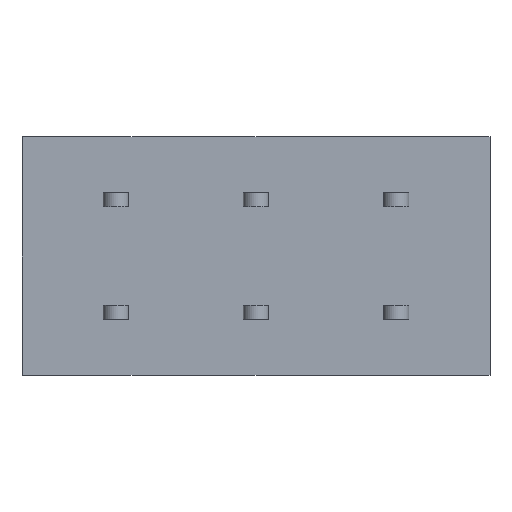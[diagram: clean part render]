
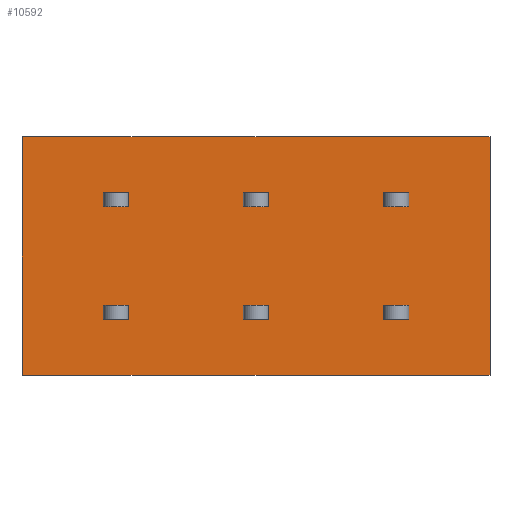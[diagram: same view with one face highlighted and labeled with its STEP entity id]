
A CAD part, front view. The second image highlights one B-rep face of the part: STEP entity #10592.
In plain terms, the highlighted planar face has unit normal (0, -1, 0).
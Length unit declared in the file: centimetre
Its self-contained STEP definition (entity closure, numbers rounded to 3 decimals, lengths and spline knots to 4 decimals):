
#671=VERTEX_POINT('',#13988);
#672=VERTEX_POINT('',#13989);
#675=VERTEX_POINT('',#13997);
#677=VERTEX_POINT('',#14003);
#678=VERTEX_POINT('',#14004);
#681=VERTEX_POINT('',#14012);
#710=VERTEX_POINT('',#14086);
#713=VERTEX_POINT('',#14100);
#724=VERTEX_POINT('',#14142);
#725=VERTEX_POINT('',#14143);
#726=VERTEX_POINT('',#14145);
#727=VERTEX_POINT('',#14147);
#728=VERTEX_POINT('',#14150);
#729=VERTEX_POINT('',#14151);
#730=VERTEX_POINT('',#14153);
#731=VERTEX_POINT('',#14155);
#732=VERTEX_POINT('',#14158);
#733=VERTEX_POINT('',#14159);
#734=VERTEX_POINT('',#14161);
#735=VERTEX_POINT('',#14163);
#736=VERTEX_POINT('',#14166);
#737=VERTEX_POINT('',#14167);
#738=VERTEX_POINT('',#14169);
#739=VERTEX_POINT('',#14171);
#740=VERTEX_POINT('',#14174);
#741=VERTEX_POINT('',#14175);
#742=VERTEX_POINT('',#14177);
#743=VERTEX_POINT('',#14179);
#1769=VECTOR('',#11853,1.);
#1773=VECTOR('',#11858,1.);
#1775=VECTOR('',#11863,1.);
#1779=VECTOR('',#11868,1.);
#1807=VECTOR('',#11924,1.);
#1811=VECTOR('',#11937,1.);
#1812=VECTOR('',#11939,1.);
#1823=VECTOR('',#11955,1.);
#1829=VECTOR('',#11975,1.);
#1830=VECTOR('',#11976,1.);
#1831=VECTOR('',#11977,1.);
#1832=VECTOR('',#11978,1.);
#1833=VECTOR('',#11979,1.);
#1834=VECTOR('',#11980,1.);
#1835=VECTOR('',#11981,1.);
#1836=VECTOR('',#11982,1.);
#1837=VECTOR('',#11983,1.);
#1838=VECTOR('',#11984,1.);
#1839=VECTOR('',#11985,1.);
#1840=VECTOR('',#11986,1.);
#1841=VECTOR('',#11987,1.);
#1842=VECTOR('',#11988,1.);
#1843=VECTOR('',#11989,1.);
#1844=VECTOR('',#11990,1.);
#1845=VECTOR('',#11991,1.);
#1846=VECTOR('',#11992,1.);
#1847=VECTOR('',#11993,1.);
#1848=VECTOR('',#11994,1.);
#3019=LINE('',#13987,#1769);
#3023=LINE('',#13996,#1773);
#3025=LINE('',#14002,#1775);
#3029=LINE('',#14011,#1779);
#3057=LINE('',#14085,#1807);
#3061=LINE('',#14097,#1811);
#3062=LINE('',#14099,#1812);
#3073=LINE('',#14120,#1823);
#3079=LINE('',#14141,#1829);
#3080=LINE('',#14144,#1830);
#3081=LINE('',#14146,#1831);
#3082=LINE('',#14148,#1832);
#3083=LINE('',#14149,#1833);
#3084=LINE('',#14152,#1834);
#3085=LINE('',#14154,#1835);
#3086=LINE('',#14156,#1836);
#3087=LINE('',#14157,#1837);
#3088=LINE('',#14160,#1838);
#3089=LINE('',#14162,#1839);
#3090=LINE('',#14164,#1840);
#3091=LINE('',#14165,#1841);
#3092=LINE('',#14168,#1842);
#3093=LINE('',#14170,#1843);
#3094=LINE('',#14172,#1844);
#3095=LINE('',#14173,#1845);
#3096=LINE('',#14176,#1846);
#3097=LINE('',#14178,#1847);
#3098=LINE('',#14180,#1848);
#4269=EDGE_CURVE('',#671,#672,#3019,.T.);
#4273=EDGE_CURVE('',#675,#671,#3023,.T.);
#4276=EDGE_CURVE('',#677,#678,#3025,.T.);
#4280=EDGE_CURVE('',#681,#677,#3029,.T.);
#4317=EDGE_CURVE('',#678,#710,#3057,.T.);
#4323=EDGE_CURVE('',#710,#681,#3061,.T.);
#4324=EDGE_CURVE('',#713,#675,#3062,.T.);
#4335=EDGE_CURVE('',#672,#713,#3073,.T.);
#4345=EDGE_CURVE('',#724,#725,#3079,.T.);
#4346=EDGE_CURVE('',#725,#726,#3080,.T.);
#4347=EDGE_CURVE('',#726,#727,#3081,.T.);
#4348=EDGE_CURVE('',#727,#724,#3082,.T.);
#4349=EDGE_CURVE('',#728,#729,#3083,.T.);
#4350=EDGE_CURVE('',#729,#730,#3084,.T.);
#4351=EDGE_CURVE('',#730,#731,#3085,.T.);
#4352=EDGE_CURVE('',#731,#728,#3086,.T.);
#4353=EDGE_CURVE('',#732,#733,#3087,.T.);
#4354=EDGE_CURVE('',#734,#733,#3088,.T.);
#4355=EDGE_CURVE('',#734,#735,#3089,.T.);
#4356=EDGE_CURVE('',#735,#732,#3090,.T.);
#4357=EDGE_CURVE('',#736,#737,#3091,.T.);
#4358=EDGE_CURVE('',#737,#738,#3092,.T.);
#4359=EDGE_CURVE('',#738,#739,#3093,.T.);
#4360=EDGE_CURVE('',#739,#736,#3094,.T.);
#4361=EDGE_CURVE('',#740,#741,#3095,.T.);
#4362=EDGE_CURVE('',#741,#742,#3096,.T.);
#4363=EDGE_CURVE('',#742,#743,#3097,.T.);
#4364=EDGE_CURVE('',#743,#740,#3098,.T.);
#6037=ORIENTED_EDGE('',*,*,#4345,.T.);
#6038=ORIENTED_EDGE('',*,*,#4346,.T.);
#6039=ORIENTED_EDGE('',*,*,#4347,.T.);
#6040=ORIENTED_EDGE('',*,*,#4348,.T.);
#6041=ORIENTED_EDGE('',*,*,#4349,.T.);
#6042=ORIENTED_EDGE('',*,*,#4350,.T.);
#6043=ORIENTED_EDGE('',*,*,#4351,.T.);
#6044=ORIENTED_EDGE('',*,*,#4352,.T.);
#6045=ORIENTED_EDGE('',*,*,#4353,.T.);
#6046=ORIENTED_EDGE('',*,*,#4354,.F.);
#6047=ORIENTED_EDGE('',*,*,#4355,.T.);
#6048=ORIENTED_EDGE('',*,*,#4356,.T.);
#6049=ORIENTED_EDGE('',*,*,#4357,.T.);
#6050=ORIENTED_EDGE('',*,*,#4358,.T.);
#6051=ORIENTED_EDGE('',*,*,#4359,.T.);
#6052=ORIENTED_EDGE('',*,*,#4360,.T.);
#6053=ORIENTED_EDGE('',*,*,#4361,.T.);
#6054=ORIENTED_EDGE('',*,*,#4362,.T.);
#6055=ORIENTED_EDGE('',*,*,#4363,.T.);
#6056=ORIENTED_EDGE('',*,*,#4364,.T.);
#6057=ORIENTED_EDGE('',*,*,#4280,.T.);
#6058=ORIENTED_EDGE('',*,*,#4276,.T.);
#6059=ORIENTED_EDGE('',*,*,#4317,.T.);
#6060=ORIENTED_EDGE('',*,*,#4323,.T.);
#6061=ORIENTED_EDGE('',*,*,#4273,.T.);
#6062=ORIENTED_EDGE('',*,*,#4269,.T.);
#6063=ORIENTED_EDGE('',*,*,#4335,.T.);
#6064=ORIENTED_EDGE('',*,*,#4324,.T.);
#9231=EDGE_LOOP('',(#6037,#6038,#6039,#6040));
#9232=EDGE_LOOP('',(#6041,#6042,#6043,#6044));
#9233=EDGE_LOOP('',(#6045,#6046,#6047,#6048));
#9234=EDGE_LOOP('',(#6049,#6050,#6051,#6052));
#9235=EDGE_LOOP('',(#6053,#6054,#6055,#6056));
#9236=EDGE_LOOP('',(#6057,#6058,#6059,#6060));
#9237=EDGE_LOOP('',(#6061,#6062,#6063,#6064));
#9913=FACE_BOUND('',#9231,.T.);
#9914=FACE_BOUND('',#9232,.T.);
#9915=FACE_BOUND('',#9233,.T.);
#9916=FACE_BOUND('',#9234,.T.);
#9917=FACE_BOUND('',#9235,.T.);
#9918=FACE_BOUND('',#9236,.T.);
#9919=FACE_BOUND('',#9237,.T.);
#10592=ADVANCED_FACE('',(#9913,#9914,#9915,#9916,#9917,#9918,#9919),#18384,
 .T.);
#11230=AXIS2_PLACEMENT_3D('',#14140,#11974,$);
#11853=DIRECTION('',(0.,0.,-1.));
#11858=DIRECTION('',(1.,0.,0.));
#11863=DIRECTION('',(0.,0.,1.));
#11868=DIRECTION('',(-1.,0.,0.));
#11924=DIRECTION('',(1.,0.,0.));
#11937=DIRECTION('',(0.,0.,-1.));
#11939=DIRECTION('',(0.,0.,1.));
#11955=DIRECTION('',(-1.,0.,0.));
#11974=DIRECTION('',(0.,-1.,0.));
#11975=DIRECTION('',(1.,0.,0.));
#11976=DIRECTION('',(0.,0.,-1.));
#11977=DIRECTION('',(-1.,0.,0.));
#11978=DIRECTION('',(0.,0.,1.));
#11979=DIRECTION('',(-1.,0.,0.));
#11980=DIRECTION('',(0.,0.,1.));
#11981=DIRECTION('',(1.,0.,0.));
#11982=DIRECTION('',(0.,0.,-1.));
#11983=DIRECTION('',(1.,0.,0.));
#11984=DIRECTION('',(0.,0.,-1.));
#11985=DIRECTION('',(-1.,0.,0.));
#11986=DIRECTION('',(0.,0.,-1.));
#11987=DIRECTION('',(-1.,0.,0.));
#11988=DIRECTION('',(0.,0.,1.));
#11989=DIRECTION('',(1.,0.,0.));
#11990=DIRECTION('',(0.,0.,-1.));
#11991=DIRECTION('',(1.,0.,0.));
#11992=DIRECTION('',(0.,0.,-1.));
#11993=DIRECTION('',(-1.,0.,0.));
#11994=DIRECTION('',(0.,0.,1.));
#13987=CARTESIAN_POINT('',(2.68,0.,-0.2));
#13988=CARTESIAN_POINT('',(2.68,0.,-0.35));
#13989=CARTESIAN_POINT('',(2.68,0.,-0.45));
#13996=CARTESIAN_POINT('',(1.295,0.,-0.35));
#13997=CARTESIAN_POINT('',(2.5,0.,-0.35));
#14002=CARTESIAN_POINT('',(2.5,0.,0.2));
#14003=CARTESIAN_POINT('',(2.5,0.,0.35));
#14004=CARTESIAN_POINT('',(2.5,0.,0.45));
#14011=CARTESIAN_POINT('',(1.295,0.,0.35));
#14012=CARTESIAN_POINT('',(2.68,0.,0.35));
#14085=CARTESIAN_POINT('',(1.295,0.,0.45));
#14086=CARTESIAN_POINT('',(2.68,0.,0.45));
#14097=CARTESIAN_POINT('',(2.68,0.,0.2));
#14099=CARTESIAN_POINT('',(2.5,0.,-0.2));
#14100=CARTESIAN_POINT('',(2.5,0.,-0.45));
#14120=CARTESIAN_POINT('',(1.295,0.,-0.45));
#14140=CARTESIAN_POINT('',(0.,0.,0.));
#14141=CARTESIAN_POINT('',(0.795,0.,-0.35));
#14142=CARTESIAN_POINT('',(1.5,0.,-0.35));
#14143=CARTESIAN_POINT('',(1.68,0.,-0.35));
#14144=CARTESIAN_POINT('',(1.68,0.,-0.2));
#14145=CARTESIAN_POINT('',(1.68,0.,-0.45));
#14146=CARTESIAN_POINT('',(0.795,0.,-0.45));
#14147=CARTESIAN_POINT('',(1.5,0.,-0.45));
#14148=CARTESIAN_POINT('',(1.5,0.,-0.2));
#14149=CARTESIAN_POINT('',(0.795,0.,0.35));
#14150=CARTESIAN_POINT('',(1.68,0.,0.35));
#14151=CARTESIAN_POINT('',(1.5,0.,0.35));
#14152=CARTESIAN_POINT('',(1.5,0.,0.2));
#14153=CARTESIAN_POINT('',(1.5,0.,0.45));
#14154=CARTESIAN_POINT('',(0.795,0.,0.45));
#14155=CARTESIAN_POINT('',(1.68,0.,0.45));
#14156=CARTESIAN_POINT('',(1.68,0.,0.2));
#14157=CARTESIAN_POINT('',(2.,0.,-0.85));
#14158=CARTESIAN_POINT('',(-0.08,0.,-0.85));
#14159=CARTESIAN_POINT('',(3.26,0.,-0.85));
#14160=CARTESIAN_POINT('',(3.26,0.,0.85));
#14161=CARTESIAN_POINT('',(3.26,0.,0.85));
#14162=CARTESIAN_POINT('',(0.,0.,0.85));
#14163=CARTESIAN_POINT('',(-0.08,0.,0.85));
#14164=CARTESIAN_POINT('',(-0.08,0.,0.85));
#14165=CARTESIAN_POINT('',(0.295,0.,0.35));
#14166=CARTESIAN_POINT('',(0.68,0.,0.35));
#14167=CARTESIAN_POINT('',(0.5,0.,0.35));
#14168=CARTESIAN_POINT('',(0.5,0.,0.2));
#14169=CARTESIAN_POINT('',(0.5,0.,0.45));
#14170=CARTESIAN_POINT('',(0.295,0.,0.45));
#14171=CARTESIAN_POINT('',(0.68,0.,0.45));
#14172=CARTESIAN_POINT('',(0.68,0.,0.2));
#14173=CARTESIAN_POINT('',(0.295,0.,-0.35));
#14174=CARTESIAN_POINT('',(0.5,0.,-0.35));
#14175=CARTESIAN_POINT('',(0.68,0.,-0.35));
#14176=CARTESIAN_POINT('',(0.68,0.,-0.2));
#14177=CARTESIAN_POINT('',(0.68,0.,-0.45));
#14178=CARTESIAN_POINT('',(0.295,0.,-0.45));
#14179=CARTESIAN_POINT('',(0.5,0.,-0.45));
#14180=CARTESIAN_POINT('',(0.5,0.,-0.2));
#18384=PLANE('',#11230);
